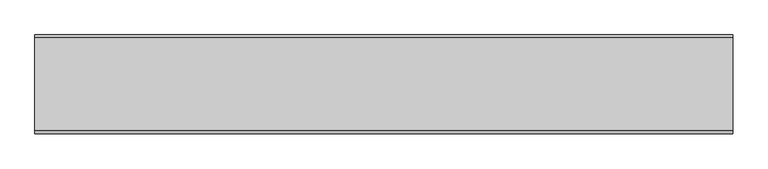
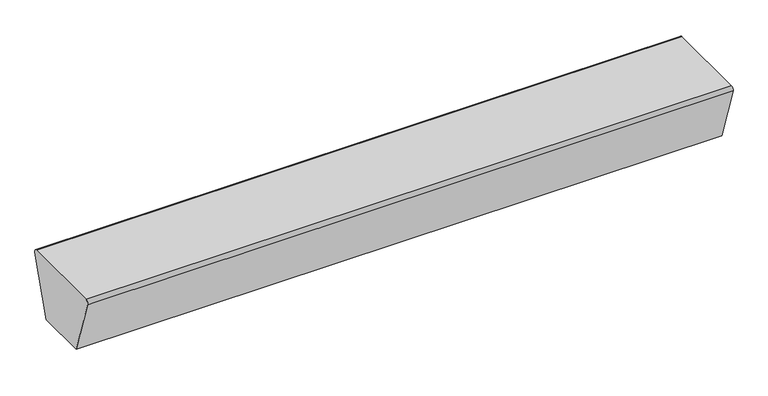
"""IFC4 building model written with IfcOpenShell, lengths in millimetres: furniture geometry, Banco de hormigón : Banco de hormigón 4.6m."""

from ifc_helpers import new_model, si_unit, point, frame, frame_2d, origin, place, context, project, spatial, polyline, circle_curve, trimmed, segment, composite_curve, outline, extrude, source, transform, mapped, element, save


def furniture_638756c5(model_context):
    return source(origin(), model_context, "Body", "SweptSolid", [
        extrude(outline(composite_curve([segment(polyline([(-141.2251482, 0.0), (-508.7748518, 0.0), (-650.0, 423.6754447)]), True, "CONTINUOUS"), segment(trimmed(circle_curve(frame_2d((-631.026334, 430.0)), 20.0), [point((-650.0, 423.6754447))], [point((-631.026334, 450.0))], False, "CARTESIAN"), True, "CONTINUOUS"), segment(polyline([(-631.026334, 450.0), (-18.973666, 450.0)]), True, "CONTINUOUS"), segment(trimmed(circle_curve(frame_2d((-18.973666, 430.0)), 20.0), [point((-18.973666, 450.0))], [point((0.0, 423.6754447))], False, "CARTESIAN"), True, "CONTINUOUS"), segment(polyline([(0.0, 423.6754447), (-141.2251482, 0.0)]), True, "CONTINUOUS")], self_intersect=False)), frame((-2255.2996736, 0.0, 0.0), z_axis=(1.0, 0.0, 0.0), x_axis=(0.0, 1.0, 0.0)), (0.0, 0.0, 1.0), 4600.0),
    ])


if __name__ == "__main__":
    model = new_model("IFC4")
    model_context = context("Model", 3, world=origin())
    ifc_project = project(units=[si_unit("LENGTHUNIT", "METRE", prefix="MILLI")], contexts=[model_context])
    site = spatial("IfcSite", under=ifc_project)
    building = spatial("IfcBuilding", under=site)
    placement = place(None, origin())
    furniture_shape = furniture_638756c5(model_context)
    element("IfcFurniture", 1, ObjectType="Banco de hormigón : Banco de hormigón 4.6m", at=placement, inside=building, context=model_context, shape_type="MappedRepresentation", body=[
        mapped(furniture_shape, transform((0.0, 0.0, 0.0), x_axis=(1.0, 0.0, 0.0), y_axis=(0.0, 1.0, 0.0), z_axis=(0.0, 0.0, 1.0))),
    ])
    save(model, "model.ifc")
